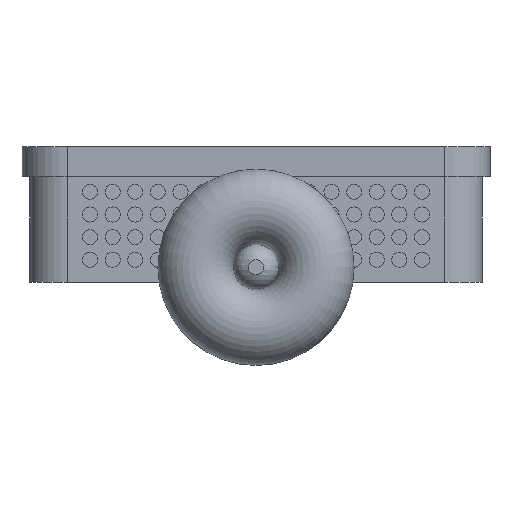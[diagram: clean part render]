
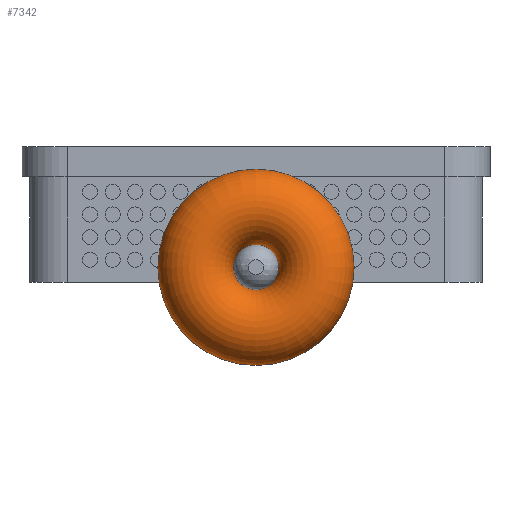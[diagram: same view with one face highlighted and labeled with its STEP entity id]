
A CAD part, front view. The second image highlights one B-rep face of the part: STEP entity #7342.
In plain terms, the highlighted toroidal (fillet/blend) face has major radius 40 mm and minor radius 25 mm.
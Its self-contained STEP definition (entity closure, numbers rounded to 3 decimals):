
#13=TOROIDAL_SURFACE('',#7987,40.,25.);
#633=FACE_OUTER_BOUND('',#1252,.T.);
#1252=EDGE_LOOP('',(#5111,#5112,#5113,#5114,#5115,#5116));
#2860=CIRCLE('',#7988,15.);
#2861=CIRCLE('',#7989,15.);
#2862=CIRCLE('',#7990,25.);
#3479=VERTEX_POINT('',#12065);
#3480=VERTEX_POINT('',#12066);
#4130=EDGE_CURVE('',#3479,#3480,#2860,.T.);
#4131=EDGE_CURVE('',#3480,#3479,#2861,.T.);
#4132=EDGE_CURVE('',#3480,#3480,#2862,.T.);
#5111=ORIENTED_EDGE('',*,*,#4130,.F.);
#5112=ORIENTED_EDGE('',*,*,#4131,.F.);
#5113=ORIENTED_EDGE('',*,*,#4132,.T.);
#5114=ORIENTED_EDGE('',*,*,#4131,.T.);
#5115=ORIENTED_EDGE('',*,*,#4130,.T.);
#5116=ORIENTED_EDGE('',*,*,#4132,.F.);
#7342=ADVANCED_FACE('',(#633),#13,.T.);
#7987=AXIS2_PLACEMENT_3D('',#12064,#9243,#9244);
#7988=AXIS2_PLACEMENT_3D('',#12067,#9245,#9246);
#7989=AXIS2_PLACEMENT_3D('',#12068,#9247,#9248);
#7990=AXIS2_PLACEMENT_3D('',#12069,#9249,#9250);
#9243=DIRECTION('center_axis',(0.,1.,0.));
#9244=DIRECTION('ref_axis',(0.,0.,1.));
#9245=DIRECTION('center_axis',(0.,1.,0.));
#9246=DIRECTION('ref_axis',(0.,0.,1.));
#9247=DIRECTION('center_axis',(0.,1.,0.));
#9248=DIRECTION('ref_axis',(0.,0.,1.));
#9249=DIRECTION('center_axis',(-1.,0.,0.));
#9250=DIRECTION('ref_axis',(0.,0.,-1.));
#12064=CARTESIAN_POINT('Origin',(40.,0.,0.));
#12065=CARTESIAN_POINT('',(40.,0.,15.));
#12066=CARTESIAN_POINT('',(40.,0.,-15.));
#12067=CARTESIAN_POINT('Origin',(40.,0.,0.));
#12068=CARTESIAN_POINT('Origin',(40.,0.,0.));
#12069=CARTESIAN_POINT('Origin',(40.,0.,-40.));
